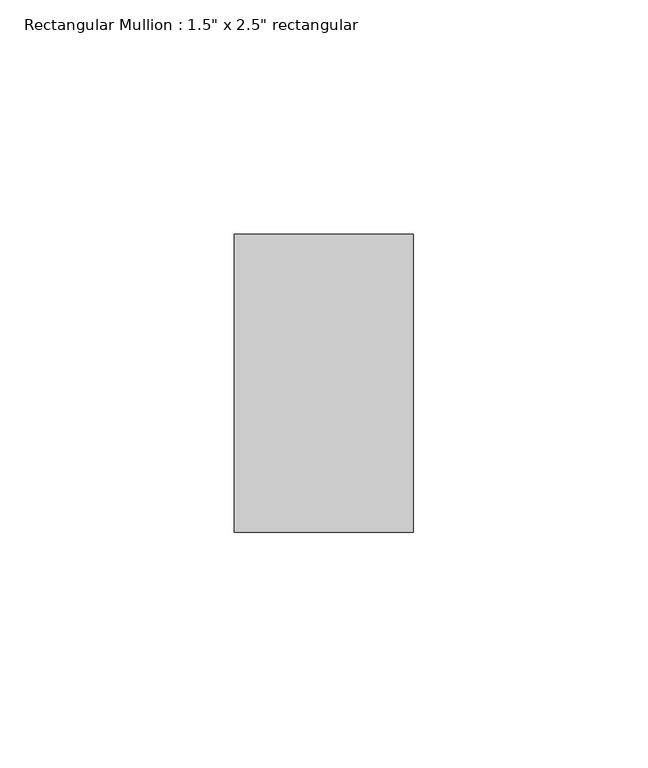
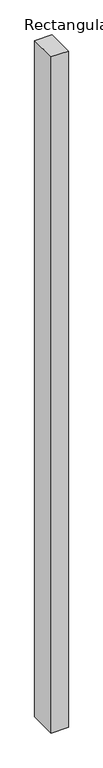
"""IFC4 building model written with IfcOpenShell, lengths in millimetres: member geometry."""

from ifc_helpers import new_model, si_unit, frame, origin, place, context, project, spatial, polyline, outline, extrude, source, transform, mapped, element, save


def member_481e25ef(model_context):
    return source(origin(), model_context, "Body", "SweptSolid", [
        extrude(outline(polyline([(19.05, 31.75), (19.05, -31.75), (-19.05, -31.75), (-19.05, 31.75), (19.05, 31.75)])), frame((0.0, 0.0, -1587.5), z_axis=(0.0, 0.0, 1.0), x_axis=(1.0, 0.0, 0.0)), (0.0, 0.0, 1.0), 1587.5),
    ])


if __name__ == "__main__":
    model = new_model("IFC4")
    model_context = context("Model", 3, world=origin())
    ifc_project = project(units=[si_unit("LENGTHUNIT", "METRE", prefix="MILLI")], contexts=[model_context])
    site = spatial("IfcSite", under=ifc_project)
    building = spatial("IfcBuilding", under=site)
    placement = place(None, origin())
    member_shape = member_481e25ef(model_context)
    element("IfcMember", 1, ObjectType="Rectangular Mullion : 1.5\" x 2.5\" rectangular", at=placement, inside=building, context=model_context, shape_type="MappedRepresentation", body=[
        mapped(member_shape, transform((0.0, 0.0, 0.0), x_axis=(1.0, 0.0, 0.0), y_axis=(0.0, 1.0, 0.0), z_axis=(0.0, 0.0, 1.0))),
    ])
    save(model, "model.ifc")
